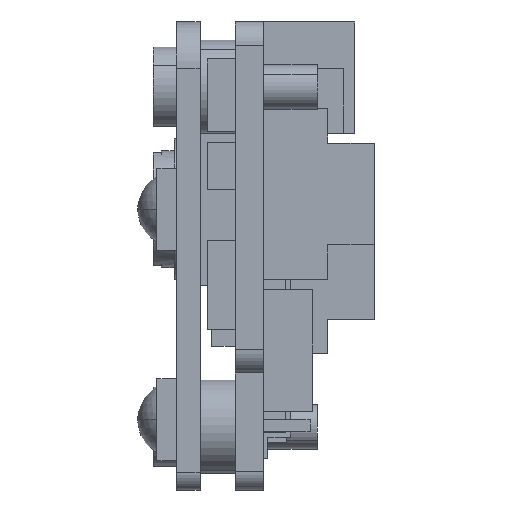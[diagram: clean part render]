
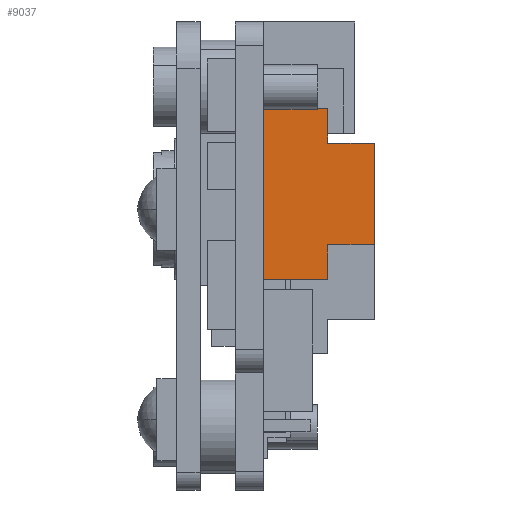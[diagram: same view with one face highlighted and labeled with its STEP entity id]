
A CAD part, left-side view. The second image highlights one B-rep face of the part: STEP entity #9037.
In plain terms, the highlighted planar face has unit normal (-1, 0, 0).
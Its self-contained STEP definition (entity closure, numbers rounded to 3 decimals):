
#8703=DIRECTION('',(0.,1.,0.));
#8704=VECTOR('',#8703,2.);
#8705=CARTESIAN_POINT('',(19.4,-4.75,1.155));
#8706=LINE('',#8705,#8704);
#8707=DIRECTION('',(0.,0.,1.));
#8708=VECTOR('',#8707,4.35);
#8709=CARTESIAN_POINT('',(19.4,-4.75,-3.195));
#8710=LINE('',#8709,#8708);
#8711=DIRECTION('',(0.,0.,1.));
#8712=VECTOR('',#8711,1.475);
#8713=CARTESIAN_POINT('',(19.4,-2.75,-4.67));
#8714=LINE('',#8713,#8712);
#8715=DIRECTION('',(0.,-1.,0.));
#8716=VECTOR('',#8715,2.75);
#8717=CARTESIAN_POINT('',(19.4,0.,-4.67));
#8718=LINE('',#8717,#8716);
#8719=DIRECTION('',(0.,0.,1.));
#8720=VECTOR('',#8719,1.475);
#8721=CARTESIAN_POINT('',(19.4,-2.75,1.155));
#8722=LINE('',#8721,#8720);
#8735=DIRECTION('',(0.,1.,0.));
#8736=VECTOR('',#8735,2.);
#8737=CARTESIAN_POINT('',(19.4,-4.75,-3.195));
#8738=LINE('',#8737,#8736);
#8743=DIRECTION('',(0.,0.,1.));
#8744=VECTOR('',#8743,7.3);
#8745=CARTESIAN_POINT('',(19.4,0.,-4.67));
#8746=LINE('',#8745,#8744);
#8767=DIRECTION('',(0.,-1.,0.));
#8768=VECTOR('',#8767,2.75);
#8769=CARTESIAN_POINT('',(19.4,0.,2.63));
#8770=LINE('',#8769,#8768);
#8843=CARTESIAN_POINT('',(19.4,-2.75,2.63));
#8845=VERTEX_POINT('',#8843);
#8864=CARTESIAN_POINT('',(19.4,-2.75,-3.195));
#8866=VERTEX_POINT('',#8864);
#8871=CARTESIAN_POINT('',(19.4,-4.75,1.155));
#8873=VERTEX_POINT('',#8871);
#8877=CARTESIAN_POINT('',(19.4,-2.75,1.155));
#8878=VERTEX_POINT('',#8877);
#8890=CARTESIAN_POINT('',(19.4,0.,-4.67));
#8892=VERTEX_POINT('',#8890);
#8893=CARTESIAN_POINT('',(19.4,0.,2.63));
#8894=VERTEX_POINT('',#8893);
#8901=CARTESIAN_POINT('',(19.4,-2.75,-4.67));
#8902=VERTEX_POINT('',#8901);
#8911=CARTESIAN_POINT('',(19.4,-4.75,-3.195));
#8912=VERTEX_POINT('',#8911);
#9016=CARTESIAN_POINT('',(19.4,-4.75,-4.67));
#9017=DIRECTION('',(1.,0.,0.));
#9018=DIRECTION('',(0.,0.,1.));
#9019=AXIS2_PLACEMENT_3D('',#9016,#9017,#9018);
#9020=PLANE('',#9019);
#9021=ORIENTED_EDGE('',*,*,#9004,.F.);
#9022=ORIENTED_EDGE('',*,*,#8953,.F.);
#9024=ORIENTED_EDGE('',*,*,#9023,.T.);
#9026=ORIENTED_EDGE('',*,*,#9025,.F.);
#9028=ORIENTED_EDGE('',*,*,#9027,.F.);
#9030=ORIENTED_EDGE('',*,*,#9029,.T.);
#9032=ORIENTED_EDGE('',*,*,#9031,.T.);
#9034=ORIENTED_EDGE('',*,*,#9033,.F.);
#9035=EDGE_LOOP('',(#9021,#9022,#9024,#9026,#9028,#9030,#9032,#9034));
#9036=FACE_OUTER_BOUND('',#9035,.F.);
#9037=ADVANCED_FACE('',(#9036),#9020,.F.);
#8953=EDGE_CURVE('',#8912,#8873,#8710,.T.);
#9004=EDGE_CURVE('',#8873,#8878,#8706,.T.);
#9023=EDGE_CURVE('',#8912,#8866,#8738,.T.);
#9025=EDGE_CURVE('',#8902,#8866,#8714,.T.);
#9027=EDGE_CURVE('',#8892,#8902,#8718,.T.);
#9029=EDGE_CURVE('',#8892,#8894,#8746,.T.);
#9031=EDGE_CURVE('',#8894,#8845,#8770,.T.);
#9033=EDGE_CURVE('',#8878,#8845,#8722,.T.);
